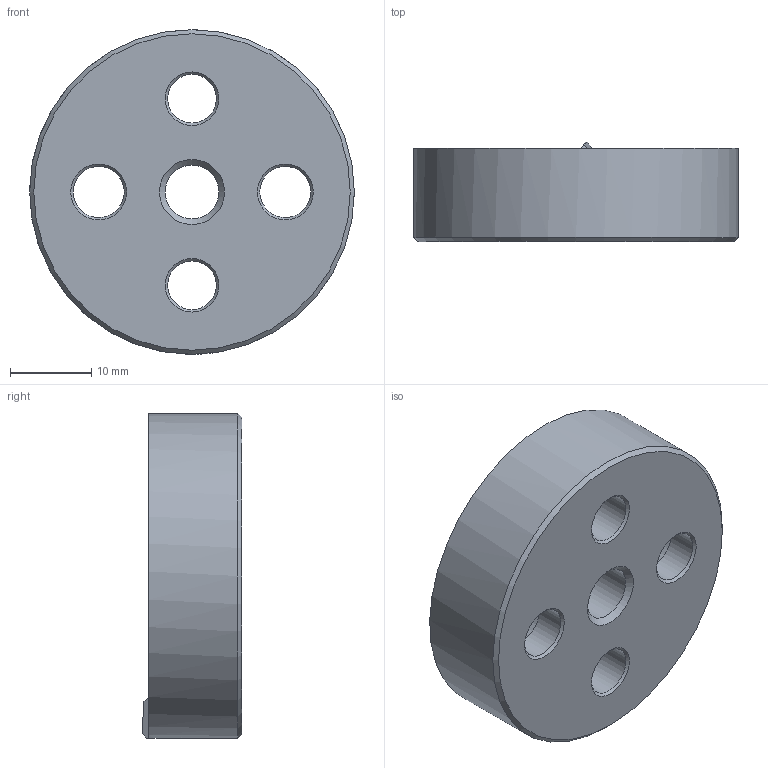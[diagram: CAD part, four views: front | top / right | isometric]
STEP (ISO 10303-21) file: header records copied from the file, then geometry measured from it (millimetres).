
FILE_DESCRIPTION( ( 'STEP AP203' ), '1' );
FILE_NAME( 'C:/Temp/Ganter_Step_05_03_2020/data/3_2/gn187_4/gn187_4_st/Serrated locking plate GN 187.4-40-48-A-ST.stp', '2020-03-13T05:25:33', ( 'License CC BY-ND 4.0' ), ( 'CADENAS' ), ' ', 'PARTsolutions', ' ' );
FILE_SCHEMA( ( 'CONFIG_CONTROL_DESIGN' ) );
Length unit declared in the file: millimetre
Products named in the file (1): _Serrated locking plate GN 187.4-40-48-A-ST
Bounding box: 40 x 12.32 x 40 mm (x, y, z)
Volume: 11012.1 mm3; surface area: 4901.4 mm2
Topology: 1 solids, 1 shells, 33 faces, 85 edges, 54 vertices
Faces by surface type: cone 12, cylinder 12, plane 9
Full cylindrical faces by diameter (mm): 6 x2, 6.3 x2, 6.647 x1, 11 x2, 40 x1
Entity records: 1044 total; most frequent: CARTESIAN_POINT 250, DIRECTION 166, ORIENTED_EDGE 128, AXIS2_PLACEMENT_3D 78, EDGE_CURVE 64, EDGE_LOOP 60, VERTEX_POINT 50, FACE_OUTER_BOUND 41
